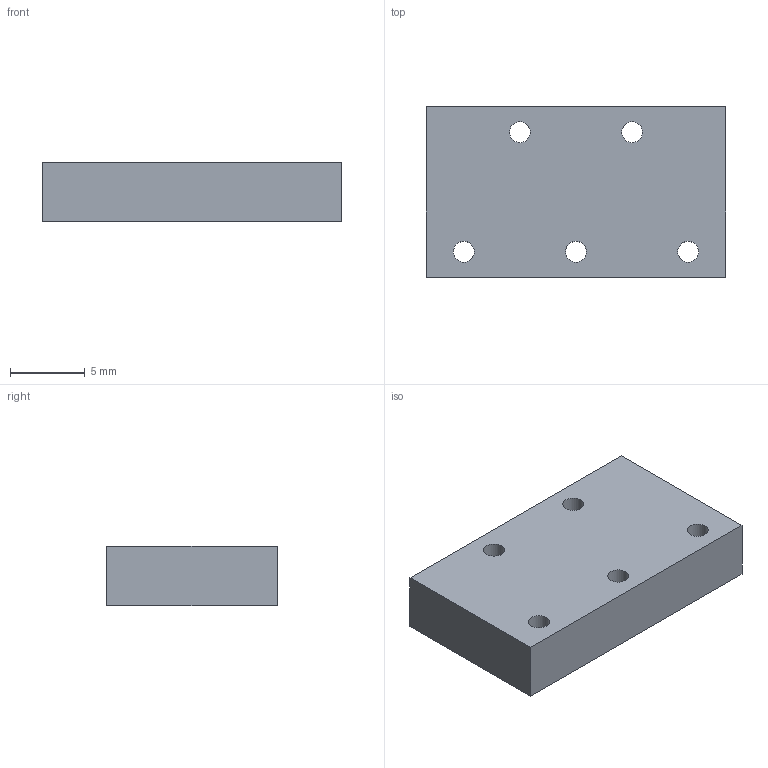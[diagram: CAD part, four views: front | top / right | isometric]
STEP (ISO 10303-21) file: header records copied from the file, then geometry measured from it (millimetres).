
FILE_DESCRIPTION(('Mechanical CAD reference from nasji.com'),'2;1');
FILE_NAME('NASJI.step','',(''),(''),'','NASJI distribution','');
FILE_SCHEMA(('AUTOMOTIVE_DESIGN { 1 0 10303 214 1 1 1 1 }'));
Length unit declared in the file: millimetre
Products named in the file (1): Open CASCADE STEP translator 7.8 77
Bounding box: 20 x 11.4 x 4 mm (x, y, z)
Volume: 881.2 mm3; surface area: 779.8 mm2
Topology: 1 solids, 1 shells, 11 faces, 27 edges, 18 vertices
Faces by surface type: plane 6, cylinder 5
Full cylindrical faces by diameter (mm): 1.4 x5
Entity records: 742 total; most frequent: CARTESIAN_POINT 171, DIRECTION 105, LINE 61, VECTOR 61, ORIENTED_EDGE 54, PCURVE 54, DEFINITIONAL_REPRESENTATION 54, EDGE_CURVE 27
